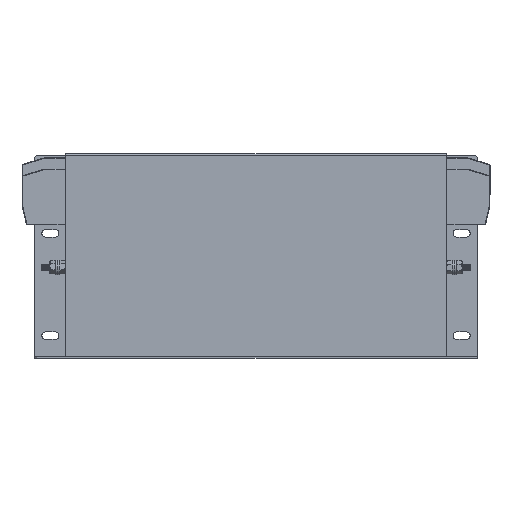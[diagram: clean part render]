
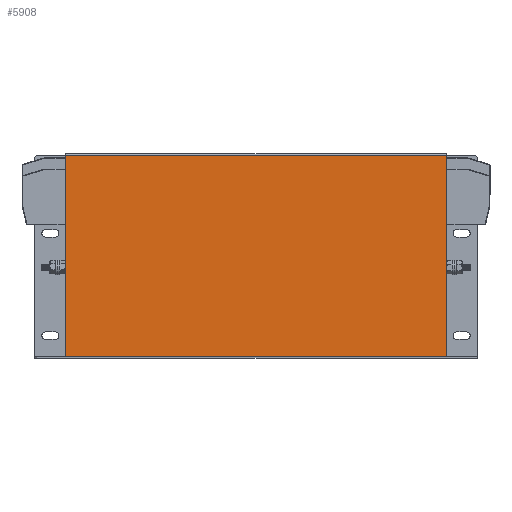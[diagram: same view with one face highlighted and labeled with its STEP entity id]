
A CAD part, top view. The second image highlights one B-rep face of the part: STEP entity #5908.
In plain terms, the highlighted planar face has unit normal (0, 0, 1).
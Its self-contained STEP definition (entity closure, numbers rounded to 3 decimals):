
#28 = ORIENTED_EDGE ( 'NONE', *, *, #12542, .F. ) ;
#47 = ORIENTED_EDGE ( 'NONE', *, *, #17898, .T. ) ;
#91 = VERTEX_POINT ( 'NONE', #17593 ) ;
#901 = VECTOR ( 'NONE', #7689, 1000. ) ;
#1102 = DIRECTION ( 'NONE',  ( 1., 0., 0. ) ) ;
#2119 = EDGE_CURVE ( 'NONE', #30620, #91, #7560, .T. ) ;
#3038 = EDGE_CURVE ( 'NONE', #91, #29310, #22054, .T. ) ;
#3687 = ORIENTED_EDGE ( 'NONE', *, *, #2119, .T. ) ;
#5908 = ADVANCED_FACE ( 'NONE', ( #23425 ), #23375, .F. ) ;
#5910 = VECTOR ( 'NONE', #14106, 1000. ) ;
#6907 = VECTOR ( 'NONE', #1102, 1000. ) ;
#7560 = LINE ( 'NONE', #26901, #5910 ) ;
#7689 = DIRECTION ( 'NONE',  ( 0., -1., 0. ) ) ;
#10592 = LINE ( 'NONE', #13072, #901 ) ;
#12542 = EDGE_CURVE ( 'NONE', #30620, #28594, #10592, .T. ) ;
#13072 = CARTESIAN_POINT ( 'NONE',  ( 363., 180., 1.5 ) ) ;
#13151 = DIRECTION ( 'NONE',  ( 0., -1., 0. ) ) ;
#14106 = DIRECTION ( 'NONE',  ( -1., 0., 0. ) ) ;
#15166 = VECTOR ( 'NONE', #13151, 1000. ) ;
#15353 = DIRECTION ( 'NONE',  ( 0., 0., -1. ) ) ;
#17568 = AXIS2_PLACEMENT_3D ( 'NONE', #20679, #15353, #28246 ) ;
#17593 = CARTESIAN_POINT ( 'NONE',  ( 27., 178.5, 1.5 ) ) ;
#17898 = EDGE_CURVE ( 'NONE', #29310, #28594, #31560, .T. ) ;
#19416 = CARTESIAN_POINT ( 'NONE',  ( 27., 1.5, 1.5 ) ) ;
#20090 = EDGE_LOOP ( 'NONE', ( #28, #3687, #22783, #47 ) ) ;
#20679 = CARTESIAN_POINT ( 'NONE',  ( 27., 180., 1.5 ) ) ;
#22054 = LINE ( 'NONE', #28642, #15166 ) ;
#22407 = CARTESIAN_POINT ( 'NONE',  ( 27., 1.5, 1.5 ) ) ;
#22783 = ORIENTED_EDGE ( 'NONE', *, *, #3038, .T. ) ;
#23375 = PLANE ( 'NONE',  #17568 ) ;
#23425 = FACE_OUTER_BOUND ( 'NONE', #20090, .T. ) ;
#25067 = CARTESIAN_POINT ( 'NONE',  ( 363., 1.5, 1.5 ) ) ;
#26901 = CARTESIAN_POINT ( 'NONE',  ( 27., 178.5, 1.5 ) ) ;
#28246 = DIRECTION ( 'NONE',  ( -1., 0., 0. ) ) ;
#28594 = VERTEX_POINT ( 'NONE', #25067 ) ;
#28642 = CARTESIAN_POINT ( 'NONE',  ( 27., 180., 1.5 ) ) ;
#29310 = VERTEX_POINT ( 'NONE', #22407 ) ;
#30620 = VERTEX_POINT ( 'NONE', #32882 ) ;
#31560 = LINE ( 'NONE', #19416, #6907 ) ;
#32882 = CARTESIAN_POINT ( 'NONE',  ( 363., 178.5, 1.5 ) ) ;
